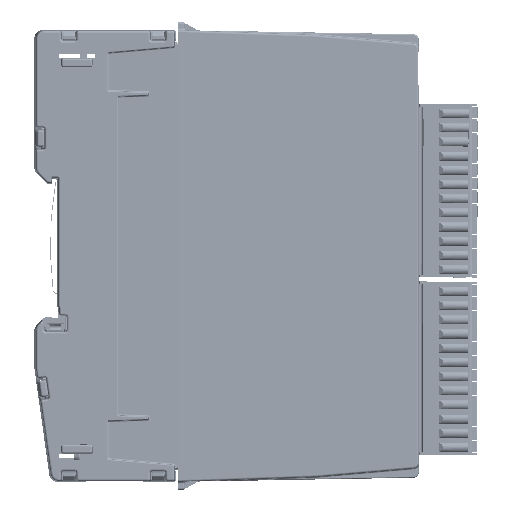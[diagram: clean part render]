
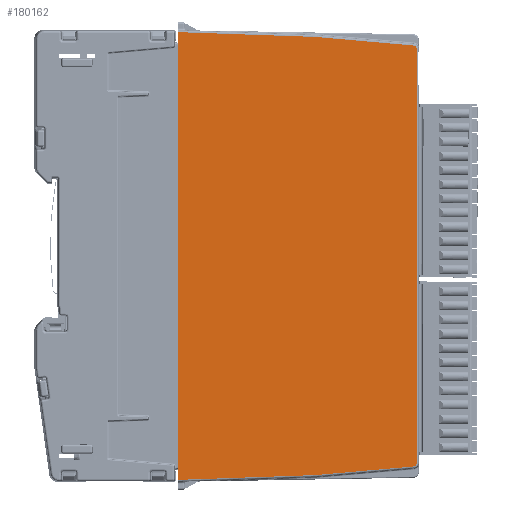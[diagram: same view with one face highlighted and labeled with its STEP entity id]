
A CAD part, left-side view. The second image highlights one B-rep face of the part: STEP entity #180162.
In plain terms, the highlighted planar face has unit normal (-1, -0.018, 0).
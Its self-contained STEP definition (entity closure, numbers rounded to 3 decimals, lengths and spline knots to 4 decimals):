
#2360=ELLIPSE('',#193413,0.0315,0.0315);
#2361=ELLIPSE('',#193414,0.0315,0.0315);
#10022=PLANE('',#193412);
#18100=FACE_OUTER_BOUND('',#28069,.T.);
#28069=EDGE_LOOP('',(#147265,#147266,#147267,#147268,#147269,#147270,#147271,
#147272,#147273,#147274));
#49920=LINE('',#298875,#67689);
#49921=LINE('',#298877,#67690);
#49922=LINE('',#298879,#67691);
#49923=LINE('',#298881,#67692);
#49924=LINE('',#298883,#67693);
#49925=LINE('',#298887,#67694);
#49926=LINE('',#298891,#67695);
#49927=LINE('',#298892,#67696);
#67689=VECTOR('',#229889,39.3701);
#67690=VECTOR('',#229890,39.3701);
#67691=VECTOR('',#229891,39.3701);
#67692=VECTOR('',#229892,39.3701);
#67693=VECTOR('',#229893,39.3701);
#67694=VECTOR('',#229896,39.3701);
#67695=VECTOR('',#229899,39.3701);
#67696=VECTOR('',#229900,39.3701);
#84112=VERTEX_POINT('',#298873);
#84113=VERTEX_POINT('',#298874);
#84114=VERTEX_POINT('',#298876);
#84115=VERTEX_POINT('',#298878);
#84116=VERTEX_POINT('',#298880);
#84117=VERTEX_POINT('',#298882);
#84118=VERTEX_POINT('',#298884);
#84119=VERTEX_POINT('',#298886);
#84120=VERTEX_POINT('',#298888);
#84121=VERTEX_POINT('',#298890);
#106096=EDGE_CURVE('',#84112,#84113,#49920,.T.);
#106097=EDGE_CURVE('',#84114,#84113,#49921,.T.);
#106098=EDGE_CURVE('',#84114,#84115,#49922,.T.);
#106099=EDGE_CURVE('',#84115,#84116,#49923,.T.);
#106100=EDGE_CURVE('',#84116,#84117,#49924,.T.);
#106101=EDGE_CURVE('',#84117,#84118,#2360,.T.);
#106102=EDGE_CURVE('',#84118,#84119,#49925,.T.);
#106103=EDGE_CURVE('',#84119,#84120,#2361,.T.);
#106104=EDGE_CURVE('',#84120,#84121,#49926,.T.);
#106105=EDGE_CURVE('',#84121,#84112,#49927,.T.);
#147265=ORIENTED_EDGE('',*,*,#106096,.T.);
#147266=ORIENTED_EDGE('',*,*,#106097,.F.);
#147267=ORIENTED_EDGE('',*,*,#106098,.T.);
#147268=ORIENTED_EDGE('',*,*,#106099,.T.);
#147269=ORIENTED_EDGE('',*,*,#106100,.T.);
#147270=ORIENTED_EDGE('',*,*,#106101,.T.);
#147271=ORIENTED_EDGE('',*,*,#106102,.T.);
#147272=ORIENTED_EDGE('',*,*,#106103,.T.);
#147273=ORIENTED_EDGE('',*,*,#106104,.T.);
#147274=ORIENTED_EDGE('',*,*,#106105,.T.);
#180162=ADVANCED_FACE('',(#18100),#10022,.T.);
#193412=AXIS2_PLACEMENT_3D('',#298872,#229887,#229888);
#193413=AXIS2_PLACEMENT_3D('',#298885,#229894,#229895);
#193414=AXIS2_PLACEMENT_3D('',#298889,#229897,#229898);
#229887=DIRECTION('center_axis',(-1.,-0.017,
0.));
#229888=DIRECTION('ref_axis',(-0.017,1.,0.));
#229889=DIRECTION('',(0.,0.,-1.));
#229890=DIRECTION('',(0.,0.,1.));
#229891=DIRECTION('',(0.,0.,-1.));
#229892=DIRECTION('',(0.017,-0.999,0.035));
#229893=DIRECTION('',(0.017,-0.996,0.087));
#229894=DIRECTION('center_axis',(-1.,-0.017,
0.));
#229895=DIRECTION('ref_axis',(0.017,-1.,0.));
#229896=DIRECTION('',(0.,0.,1.));
#229897=DIRECTION('center_axis',(-1.,-0.017,
0.));
#229898=DIRECTION('ref_axis',(0.017,-1.,0.));
#229899=DIRECTION('',(-0.017,0.996,0.087));
#229900=DIRECTION('',(-0.017,0.999,0.035));
#298872=CARTESIAN_POINT('Origin',(-0.0296,-0.489,
-2.0669));
#298873=CARTESIAN_POINT('',(-0.0227,-0.8827,0.1083));
#298874=CARTESIAN_POINT('',(-0.0227,-0.8827,-0.0312));
#298875=CARTESIAN_POINT('',(-0.0227,-0.8827,0.128));
#298876=CARTESIAN_POINT('',(-0.0227,-0.8827,-4.1027));
#298877=CARTESIAN_POINT('',(-0.0227,-0.8827,-7.5932));
#298878=CARTESIAN_POINT('',(-0.0227,-0.8827,-4.2421));
#298879=CARTESIAN_POINT('',(-0.0227,-0.8827,0.128));
#298880=CARTESIAN_POINT('',(0.0007,-2.2205,-4.1954));
#298881=CARTESIAN_POINT('',(-0.0282,-0.5654,-4.2532));
#298882=CARTESIAN_POINT('',(0.0174,-3.1772,-4.1117));
#298883=CARTESIAN_POINT('',(-0.0261,-0.6869,-4.3296));
#298884=CARTESIAN_POINT('',(0.0179,-3.2059,-4.0803));
#298885=CARTESIAN_POINT('Origin',(0.0173,-3.1744,
-4.0803));
#298886=CARTESIAN_POINT('',(0.0179,-3.2059,-0.0535));
#298887=CARTESIAN_POINT('',(0.0179,-3.2059,-0.0535));
#298888=CARTESIAN_POINT('',(0.0174,-3.1772,-0.0221));
#298889=CARTESIAN_POINT('Origin',(0.0173,-3.1744,
-0.0535));
#298890=CARTESIAN_POINT('',(0.0007,-2.2205,0.0616));
#298891=CARTESIAN_POINT('',(-0.0261,-0.6869,0.1957));
#298892=CARTESIAN_POINT('',(-0.0282,-0.5654,0.1194));
